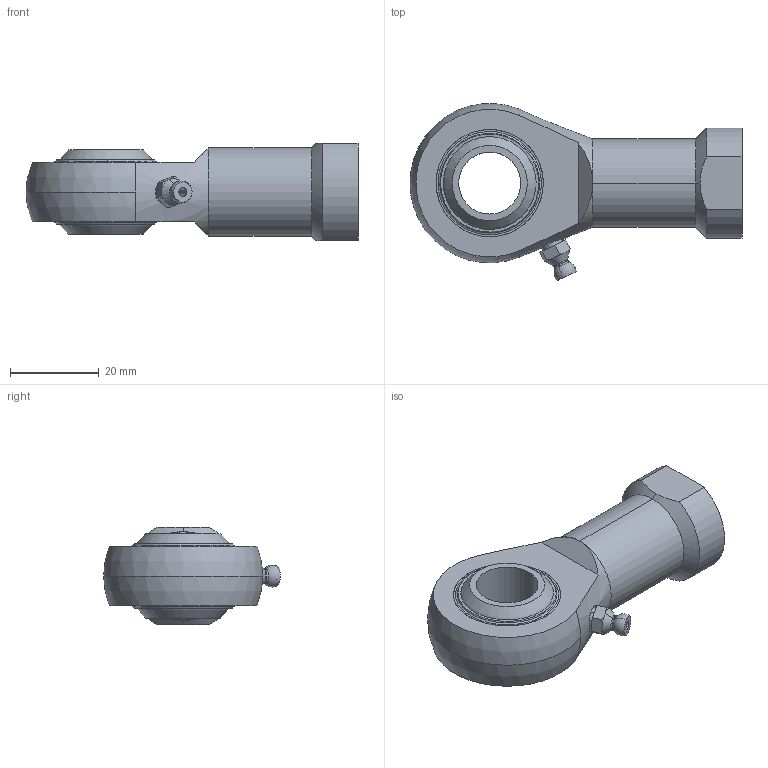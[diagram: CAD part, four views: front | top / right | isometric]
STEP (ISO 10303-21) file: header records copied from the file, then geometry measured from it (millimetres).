
FILE_DESCRIPTION (( 'STEP AP203' ), '1' );
FILE_NAME ('65760.W0214.step', '2014-02-11T16:39:17', ( 'User' ), ( '' ), 'SwSTEP 2.0', 'SolidWorks 2009', '' );
FILE_SCHEMA (( 'CONFIG_CONTROL_DESIGN' ));
Length unit declared in the file: millimetre
Products named in the file (5): Part1_65760.W0214; Part2_65760.W0214; 65760.W0214; Part3_M5; Part4_65760.W0214
Assembly tree (5 placements, depth 2):
  65760.W0214
    Part3_M5
    Part4_65760.W0214  x2
    Part1_65760.W0214
    Part2_65760.W0214
Bounding box: 75 x 39.93 x 22 mm (x, y, z)
Volume: 21073.7 mm3; surface area: 13169.8 mm2
Topology: 46 solids, 46 shells, 183 faces, 524 edges, 353 vertices
Faces by surface type: sphere 98, plane 27, torus 22, cylinder 20, cone 16
Entity records: 4813 total; most frequent: CARTESIAN_POINT 907, DIRECTION 814, ORIENTED_EDGE 558, AXIS2_PLACEMENT_3D 385, EDGE_CURVE 279, VERTEX_POINT 208, CIRCLE 207, EDGE_LOOP 189
